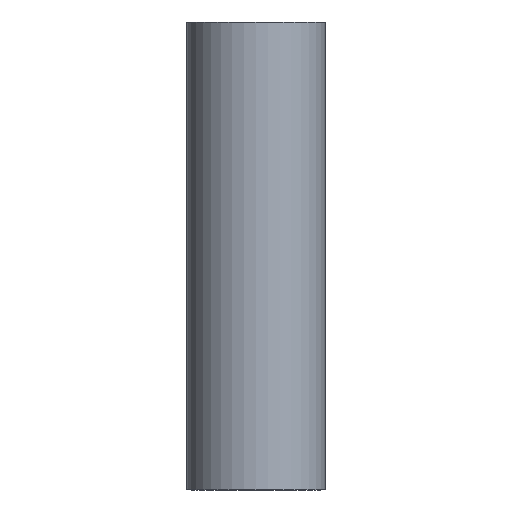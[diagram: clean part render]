
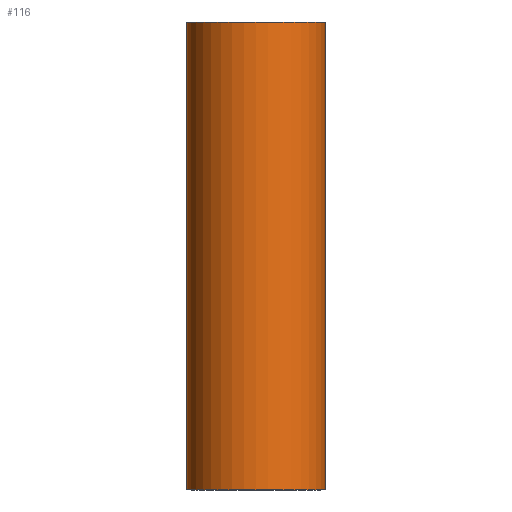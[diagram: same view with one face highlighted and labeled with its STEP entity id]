
A CAD part, left-side view. The second image highlights one B-rep face of the part: STEP entity #116.
In plain terms, the highlighted cylindrical face has radius 20 mm (diameter 40 mm), a full revolution.
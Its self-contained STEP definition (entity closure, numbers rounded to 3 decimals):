
#23=FACE_BOUND('',#51,.T.);
#24=FACE_BOUND('',#52,.T.);
#30=CIRCLE('',#151,20.);
#31=CIRCLE('',#153,20.);
#37=FACE_OUTER_BOUND('',#50,.T.);
#50=EDGE_LOOP('',(#93));
#51=EDGE_LOOP('',(#94,#95));
#52=EDGE_LOOP('',(#96));
#57=ELLIPSE('',#146,52.263,20.);
#58=ELLIPSE('',#147,21.648,20.);
#64=VERTEX_POINT('',#205);
#65=VERTEX_POINT('',#206);
#67=VERTEX_POINT('',#213);
#68=VERTEX_POINT('',#216);
#74=EDGE_CURVE('',#64,#65,#57,.T.);
#75=EDGE_CURVE('',#65,#64,#58,.T.);
#77=EDGE_CURVE('',#67,#67,#30,.T.);
#78=EDGE_CURVE('',#68,#68,#31,.T.);
#93=ORIENTED_EDGE('',*,*,#77,.T.);
#94=ORIENTED_EDGE('',*,*,#75,.T.);
#95=ORIENTED_EDGE('',*,*,#74,.T.);
#96=ORIENTED_EDGE('',*,*,#78,.F.);
#102=CYLINDRICAL_SURFACE('',#152,20.);
#116=ADVANCED_FACE('',(#37,#23,#24),#102,.T.);
#146=AXIS2_PLACEMENT_3D('',#207,#173,#174);
#147=AXIS2_PLACEMENT_3D('',#208,#175,#176);
#151=AXIS2_PLACEMENT_3D('',#214,#183,#184);
#152=AXIS2_PLACEMENT_3D('',#215,#185,#186);
#153=AXIS2_PLACEMENT_3D('',#217,#187,#188);
#173=DIRECTION('center_axis',(-0.924,0.,0.383));
#174=DIRECTION('ref_axis',(-0.383,0.,-0.924));
#175=DIRECTION('center_axis',(-0.383,0.,-0.924));
#176=DIRECTION('ref_axis',(0.924,0.,-0.383));
#183=DIRECTION('center_axis',(0.,0.,-1.));
#184=DIRECTION('ref_axis',(1.,0.,0.));
#185=DIRECTION('center_axis',(0.,0.,-1.));
#186=DIRECTION('ref_axis',(-1.,0.,0.));
#187=DIRECTION('center_axis',(0.,0.,-1.));
#188=DIRECTION('ref_axis',(1.,0.,0.));
#205=CARTESIAN_POINT('',(0.,-20.,45.));
#206=CARTESIAN_POINT('',(0.,20.,45.));
#207=CARTESIAN_POINT('Origin',(0.,0.,45.));
#208=CARTESIAN_POINT('Origin',(0.,0.,45.));
#213=CARTESIAN_POINT('',(-20.,0.,135.));
#214=CARTESIAN_POINT('Origin',(0.,0.,135.));
#215=CARTESIAN_POINT('Origin',(0.,0.,67.5));
#216=CARTESIAN_POINT('',(-20.,0.,0.));
#217=CARTESIAN_POINT('Origin',(0.,0.,0.));
